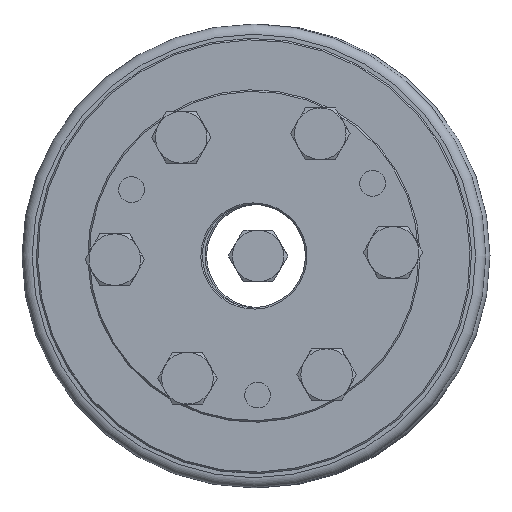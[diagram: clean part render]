
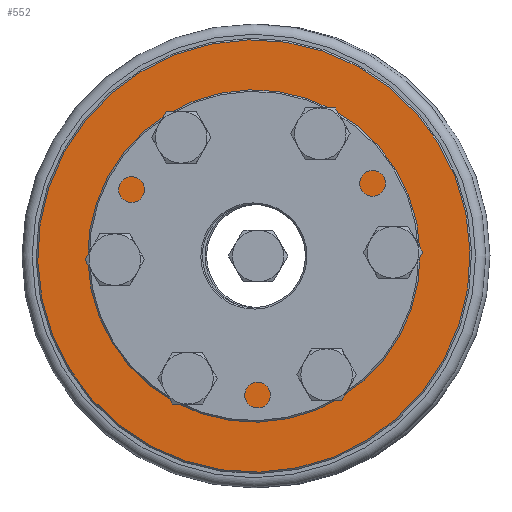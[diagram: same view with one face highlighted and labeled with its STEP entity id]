
A CAD part, left-side view. The second image highlights one B-rep face of the part: STEP entity #552.
In plain terms, the highlighted planar face has unit normal (-1, 0, 0) as drawn and (1, 0, 0) by its records, which use the part's own axes.
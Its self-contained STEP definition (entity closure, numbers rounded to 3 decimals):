
#552 = ADVANCED_FACE( 'NONE', ( #929, #930, #931, #932, #933, #934, #935, #936 ), #937, .F. );
#929 = FACE_OUTER_BOUND( '', #1248, .T. );
#930 = FACE_BOUND( '', #1249, .T. );
#931 = FACE_BOUND( '', #1250, .T. );
#932 = FACE_BOUND( '', #1251, .T. );
#933 = FACE_BOUND( '', #1252, .T. );
#934 = FACE_BOUND( '', #1253, .T. );
#935 = FACE_BOUND( '', #1254, .T. );
#936 = FACE_BOUND( '', #1255, .T. );
#937 = PLANE( '', #1256 );
#1248 = EDGE_LOOP( '', ( #1799 ) );
#1249 = EDGE_LOOP( '', ( #1800 ) );
#1250 = EDGE_LOOP( '', ( #1801 ) );
#1251 = EDGE_LOOP( '', ( #1802 ) );
#1252 = EDGE_LOOP( '', ( #1803 ) );
#1253 = EDGE_LOOP( '', ( #1804 ) );
#1254 = EDGE_LOOP( '', ( #1805 ) );
#1255 = EDGE_LOOP( '', ( #1806 ) );
#1256 = AXIS2_PLACEMENT_3D( '', #1807, #1808, #1809 );
#1799 = ORIENTED_EDGE( '', *, *, #2049, .T. );
#1800 = ORIENTED_EDGE( '', *, *, #2040, .T. );
#1801 = ORIENTED_EDGE( '', *, *, #2050, .F. );
#1802 = ORIENTED_EDGE( '', *, *, #2051, .F. );
#1803 = ORIENTED_EDGE( '', *, *, #2052, .F. );
#1804 = ORIENTED_EDGE( '', *, *, #2053, .F. );
#1805 = ORIENTED_EDGE( '', *, *, #2054, .F. );
#1806 = ORIENTED_EDGE( '', *, *, #2042, .F. );
#1807 = CARTESIAN_POINT( '', ( 20., 42.25, 0. ) );
#1808 = DIRECTION( '', ( -1., 0., 0. ) );
#1809 = DIRECTION( '', ( 0., 0., 1. ) );
#2040 = EDGE_CURVE( 'NONE', #2318, #2318, #2319, .T. );
#2042 = EDGE_CURVE( 'NONE', #2322, #2322, #2323, .T. );
#2049 = EDGE_CURVE( 'NONE', #2336, #2336, #2337, .T. );
#2050 = EDGE_CURVE( 'NONE', #2338, #2338, #2339, .T. );
#2051 = EDGE_CURVE( 'NONE', #2340, #2340, #2341, .T. );
#2052 = EDGE_CURVE( 'NONE', #2342, #2342, #2343, .T. );
#2053 = EDGE_CURVE( 'NONE', #2344, #2344, #2345, .T. );
#2054 = EDGE_CURVE( 'NONE', #2346, #2346, #2347, .T. );
#2318 = VERTEX_POINT( '', #2578 );
#2319 = CIRCLE( '', #2579, 23.558 );
#2322 = VERTEX_POINT( '', #2582 );
#2323 = CIRCLE( '', #2583, 3. );
#2336 = VERTEX_POINT( '', #2596 );
#2337 = CIRCLE( '', #2597, 41.95 );
#2338 = VERTEX_POINT( '', #2598 );
#2339 = CIRCLE( '', #2599, 3. );
#2340 = VERTEX_POINT( '', #2600 );
#2341 = CIRCLE( '', #2601, 3. );
#2342 = VERTEX_POINT( '', #2602 );
#2343 = CIRCLE( '', #2603, 3. );
#2344 = VERTEX_POINT( '', #2604 );
#2345 = CIRCLE( '', #2605, 3. );
#2346 = VERTEX_POINT( '', #2606 );
#2347 = CIRCLE( '', #2607, 3. );
#2578 = CARTESIAN_POINT( '', ( 20., 0., 23.558 ) );
#2579 = AXIS2_PLACEMENT_3D( '', #2830, #2831, #2832 );
#2582 = CARTESIAN_POINT( '', ( 20., 13.5, 20.383 ) );
#2583 = AXIS2_PLACEMENT_3D( '', #2836, #2837, #2838 );
#2596 = CARTESIAN_POINT( '', ( 20., 0., 41.95 ) );
#2597 = AXIS2_PLACEMENT_3D( '', #2857, #2858, #2859 );
#2598 = CARTESIAN_POINT( '', ( 20., -13.5, 20.383 ) );
#2599 = AXIS2_PLACEMENT_3D( '', #2860, #2861, #2862 );
#2600 = CARTESIAN_POINT( '', ( 20., 27., -3. ) );
#2601 = AXIS2_PLACEMENT_3D( '', #2863, #2864, #2865 );
#2602 = CARTESIAN_POINT( '', ( 20., 13.5, -26.383 ) );
#2603 = AXIS2_PLACEMENT_3D( '', #2866, #2867, #2868 );
#2604 = CARTESIAN_POINT( '', ( 20., -13.5, -26.383 ) );
#2605 = AXIS2_PLACEMENT_3D( '', #2869, #2870, #2871 );
#2606 = CARTESIAN_POINT( '', ( 20., -27., -3. ) );
#2607 = AXIS2_PLACEMENT_3D( '', #2872, #2873, #2874 );
#2830 = CARTESIAN_POINT( '', ( 20., 0., 0. ) );
#2831 = DIRECTION( '', ( -1., 0., 0. ) );
#2832 = DIRECTION( '', ( 0., 0., 1. ) );
#2836 = CARTESIAN_POINT( '', ( 20., 13.5, 23.383 ) );
#2837 = DIRECTION( '', ( 1., 0., 0. ) );
#2838 = DIRECTION( '', ( 0., 0., -1. ) );
#2857 = CARTESIAN_POINT( '', ( 20., 0., 0. ) );
#2858 = DIRECTION( '', ( 1., 0., 0. ) );
#2859 = DIRECTION( '', ( 0., 0., 1. ) );
#2860 = CARTESIAN_POINT( '', ( 20., -13.5, 23.383 ) );
#2861 = DIRECTION( '', ( 1., 0., 0. ) );
#2862 = DIRECTION( '', ( 0., 0., -1. ) );
#2863 = CARTESIAN_POINT( '', ( 20., 27., 0. ) );
#2864 = DIRECTION( '', ( 1., 0., 0. ) );
#2865 = DIRECTION( '', ( 0., 0., -1. ) );
#2866 = CARTESIAN_POINT( '', ( 20., 13.5, -23.383 ) );
#2867 = DIRECTION( '', ( 1., 0., 0. ) );
#2868 = DIRECTION( '', ( 0., 0., -1. ) );
#2869 = CARTESIAN_POINT( '', ( 20., -13.5, -23.383 ) );
#2870 = DIRECTION( '', ( 1., 0., 0. ) );
#2871 = DIRECTION( '', ( 0., 0., -1. ) );
#2872 = CARTESIAN_POINT( '', ( 20., -27., 0. ) );
#2873 = DIRECTION( '', ( 1., 0., 0. ) );
#2874 = DIRECTION( '', ( 0., 0., -1. ) );
